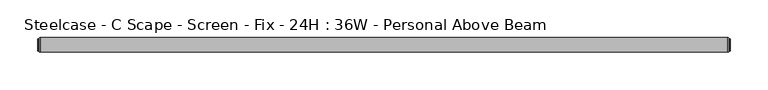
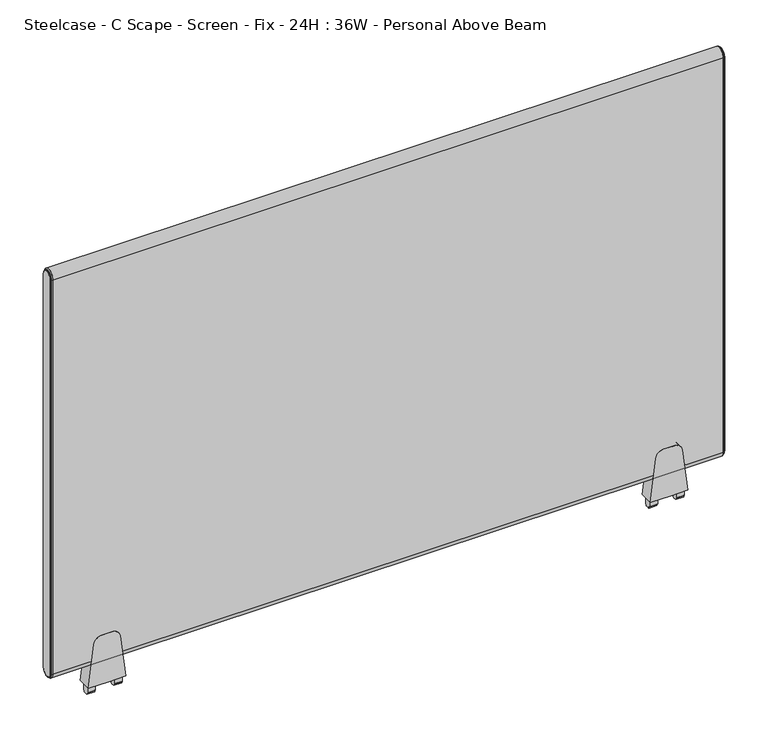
"""IFC4 building model written with IfcOpenShell, lengths in millimetres: furniture geometry, Steelcase - C Scape - Screen - Fix - 24H : 36W - Personal Above Beam."""

from ifc_helpers import new_model, si_unit, point, frame, frame_2d, origin, place, context, project, spatial, polyline, circle_curve, ellipse_curve, trimmed, segment, composite_curve, outline, extrude, source, transform, mapped, element, save
from ifc_brep_helpers import plane_surface, cylinder_surface, revolved_surface, advanced_brep


def steelcase_c_scape_screen_fix_24h_36w_personal_above_beam_34adb9c7(model_context):
    return source(origin(), model_context, "Body", "SolidModel", [
        extrude(outline(composite_curve([segment(polyline([(609.511112, 101.4730434), (669.8362421, 94.0661495)]), True, "CONTINUOUS"), segment(trimmed(circle_curve(frame_2d((668.5143718, 83.300233)), 10.8467645), [point((669.8362421, 94.0661495))], [point((679.3611362, 83.300233))], False, "CARTESIAN"), True, "CONTINUOUS"), segment(polyline([(679.3611362, 83.300233), (679.3611362, 76.2001674), (679.3611362, 69.1001018)]), True, "CONTINUOUS"), segment(trimmed(circle_curve(frame_2d((668.5143718, 69.1001018)), 10.8467645), [point((679.3611362, 69.1001018))], [point((669.8362421, 58.3341853))], False, "CARTESIAN"), True, "CONTINUOUS"), segment(polyline([(669.8362421, 58.3341853), (609.511112, 50.9272915), (609.511112, 76.2001674), (609.511112, 101.4730434)]), True, "CONTINUOUS")], self_intersect=False)), frame((0.0, -9.525, 0.0), z_axis=(0.0, 1.0, 0.0), x_axis=(0.0, 0.0, 1.0)), (0.0, 0.0, 1.0), 19.05),
        extrude(outline(polyline([(4.5465975, 609.511112), (4.5465975, 599.6051033), (4.0139265, 598.7186748), (2.9972008, 598.7186748), (2.9972008, 596.4834188), (0.0, 596.392), (-2.9972008, 596.4834188), (-2.9972008, 598.7186748), (-4.0139265, 598.7186748), (-4.5465975, 599.6051033), (-4.5465975, 609.511112), (0.0, 609.511112), (4.5465975, 609.511112)])), frame((88.9267162, 0.0, 0.0), z_axis=(1.0, 0.0, 0.0), x_axis=(0.0, 1.0, 0.0)), (0.0, 0.0, 1.0), 10.7813187),
        extrude(outline(polyline([(4.5465975, 609.511112), (4.5465975, 599.6051033), (4.0139265, 598.7186748), (2.9972008, 598.7186748), (2.9972008, 596.4834188), (0.0, 596.392), (-2.9972008, 596.4834188), (-2.9972008, 598.7186748), (-4.0139265, 598.7186748), (-4.5465975, 599.6051033), (-4.5465975, 609.511112), (0.0, 609.511112), (4.5465975, 609.511112)])), frame((52.6923, 0.0, 0.0), z_axis=(1.0, 0.0, 0.0), x_axis=(0.0, 1.0, 0.0)), (0.0, 0.0, 1.0), 10.7813187),
        extrude(outline(composite_curve([segment(polyline([(609.511112, 862.7107132), (669.8362421, 855.3038193)]), True, "CONTINUOUS"), segment(trimmed(circle_curve(frame_2d((668.5143718, 844.5379028)), 10.8467645), [point((669.8362421, 855.3038193))], [point((679.3611362, 844.5379028))], False, "CARTESIAN"), True, "CONTINUOUS"), segment(polyline([(679.3611362, 844.5379028), (679.3611362, 837.4378372), (679.3611362, 830.3377716)]), True, "CONTINUOUS"), segment(trimmed(circle_curve(frame_2d((668.5143718, 830.3377716)), 10.8467645), [point((679.3611362, 830.3377716))], [point((669.8362421, 819.5718551))], False, "CARTESIAN"), True, "CONTINUOUS"), segment(polyline([(669.8362421, 819.5718551), (609.511112, 812.1649612), (609.511112, 837.4378372), (609.511112, 862.7107132)]), True, "CONTINUOUS")], self_intersect=False)), frame((0.0, -9.525, 0.0), z_axis=(0.0, 1.0, 0.0), x_axis=(0.0, 0.0, 1.0)), (0.0, 0.0, 1.0), 19.05),
        extrude(outline(polyline([(4.5465975, 609.511112), (4.5465975, 599.6051033), (4.0139265, 598.7186748), (2.9972008, 598.7186748), (2.9972008, 596.4834188), (0.0, 596.392), (-2.9972008, 596.4834188), (-2.9972008, 598.7186748), (-4.0139265, 598.7186748), (-4.5465975, 599.6051033), (-4.5465975, 609.511112), (0.0, 609.511112), (4.5465975, 609.511112)])), frame((850.164386, 0.0, 0.0), z_axis=(1.0, 0.0, 0.0), x_axis=(0.0, 1.0, 0.0)), (0.0, 0.0, 1.0), 10.7813187),
        extrude(outline(polyline([(4.5465975, 609.511112), (4.5465975, 599.6051033), (4.0139265, 598.7186748), (2.9972008, 598.7186748), (2.9972008, 596.4834188), (0.0, 596.392), (-2.9972008, 596.4834188), (-2.9972008, 598.7186748), (-4.0139265, 598.7186748), (-4.5465975, 599.6051033), (-4.5465975, 609.511112), (0.0, 609.511112), (4.5465975, 609.511112)])), frame((813.9299698, 0.0, 0.0), z_axis=(1.0, 0.0, 0.0), x_axis=(0.0, 1.0, 0.0)), (0.0, 0.0, 1.0), 10.7813187),
        advanced_brep(
        [(910.8486613, -9.525, 1211.707), (910.8486613, 9.525, 1211.707), (910.8486613, 9.525, 646.557), (910.8486613, -9.525, 646.557), (913.6426613, 7.4929583, 1211.707), (913.6426613, -7.4929583, 1211.707), (913.6426613, -7.4929583, 646.557), (913.6426613, 7.4929583, 646.557), (913.1346545, -8.0009651, 1211.707), (913.1346545, 8.0009651, 1211.707), (911.8646613, 8.0009651, 1211.707), (911.8646613, -8.0009651, 1211.707), (911.8646613, -8.8204932, 1211.707), (911.8646613, 8.8204932, 1211.707), (911.8646613, -8.0009651, 646.557), (913.1346545, -8.0009651, 646.557), (911.8646613, -8.8204932, 646.557), (911.8646613, 8.0009651, 646.557), (913.1346545, 8.0009651, 646.557), (911.8646613, 8.8204932, 646.557)],
        [
            (0, 1, circle_curve(frame((910.8486613, 0.0, 1211.707), z_axis=(-1.0, 0.0, 0.0), x_axis=(0.0, 1.0, 0.0)), 9.525)),
            (1, 2),
            (2, 3, circle_curve(frame((910.8486613, 0.0, 646.557), z_axis=(-1.0, 0.0, 0.0), x_axis=(0.0, -1.0, 0.0)), 9.525)),
            (3, 0),
            (4, 5, circle_curve(frame((913.6426613, 0.0, 1211.707), z_axis=(1.0, 0.0, 0.0), x_axis=(0.0, 1.0, 0.0)), 7.4929583)),
            (5, 6),
            (6, 7, circle_curve(frame((913.6426613, 0.0, 646.557), z_axis=(1.0, 0.0, 0.0), x_axis=(0.0, -1.0, 0.0)), 7.4929583)),
            (7, 4),
            (8, 9, circle_curve(frame((913.1346545, 0.0, 1211.707), z_axis=(-1.0, 0.0, 0.0), x_axis=(0.0, 1.0, 0.0)), 8.0009651)),
            (9, 10),
            (10, 11, circle_curve(frame((911.8646613, 0.0, 1211.707), z_axis=(1.0, 0.0, 0.0), x_axis=(0.0, 1.0, 0.0)), 8.0009651)),
            (11, 8),
            (8, 5, circle_curve(frame((913.1346545, -7.4929583, 1211.707), z_axis=(0.0, 0.0, 1.0), x_axis=(0.0, -1.0, 0.0)), 0.5080068)),
            (4, 9, circle_curve(frame((913.1346545, 7.4929583, 1211.707), z_axis=(0.0, 0.0, 1.0), x_axis=(0.0, 1.0, 0.0)), 0.5080068)),
            (12, 13, circle_curve(frame((911.8646613, 0.0, 1211.707), z_axis=(-1.0, 0.0, 0.0), x_axis=(0.0, 1.0, 0.0)), 8.8204932)),
            (13, 1, circle_curve(frame((910.7806211, 8.3420139, 1211.707), z_axis=(0.0, 0.0, 1.0), x_axis=(0.0, 1.0, 0.0)), 1.1849411)),
            (0, 12, circle_curve(frame((910.7806211, -8.3420139, 1211.707), z_axis=(0.0, 0.0, 1.0), x_axis=(0.0, -1.0, 0.0)), 1.1849411)),
            (11, 14),
            (14, 15),
            (15, 8),
            (15, 6, circle_curve(frame((913.1346545, -7.4929583, 646.557), z_axis=(0.0, 0.0, 1.0), x_axis=(0.0, -1.0, 0.0)), 0.5080068)),
            (3, 16, circle_curve(frame((910.7806211, -8.3420139, 646.557), z_axis=(0.0, 0.0, 1.0), x_axis=(0.0, -1.0, 0.0)), 1.1849411)),
            (16, 12),
            (14, 17, circle_curve(frame((911.8646613, 0.0, 646.557), z_axis=(1.0, 0.0, 0.0), x_axis=(0.0, -1.0, 0.0)), 8.0009651)),
            (17, 18),
            (18, 15, circle_curve(frame((913.1346545, 0.0, 646.557), z_axis=(-1.0, 0.0, 0.0), x_axis=(0.0, -1.0, 0.0)), 8.0009651)),
            (18, 7, circle_curve(frame((913.1346545, 7.4929583, 646.557), z_axis=(0.0, 0.0, -1.0), x_axis=(0.0, 1.0, 0.0)), 0.5080068)),
            (2, 19, circle_curve(frame((910.7806211, 8.3420139, 646.557), z_axis=(0.0, 0.0, -1.0), x_axis=(0.0, 1.0, 0.0)), 1.1849411)),
            (19, 16, circle_curve(frame((911.8646613, 0.0, 646.557), z_axis=(-1.0, 0.0, 0.0), x_axis=(0.0, -1.0, 0.0)), 8.8204932)),
            (9, 18),
            (17, 10),
            (13, 19),
        ],
        [
            plane_surface(frame((910.8486613, -6.3509705, 1211.707), z_axis=(-1.0, 0.0, 0.0), x_axis=(0.0, 0.0, 1.0))),
            plane_surface(frame((913.6426613, -6.3509705, 1211.707), z_axis=(1.0, 0.0, 0.0), x_axis=(0.0, 0.0, -1.0))),
            cylinder_surface(frame((910.8486613, 0.0, 1211.707), z_axis=(1.0, 0.0, 0.0), x_axis=(0.0, 1.0, 0.0)), 8.0009651),
            revolved_surface(trimmed(ellipse_curve(frame((913.1346545, 7.4929583, 1211.707), z_axis=(0.0, 0.0, -1.0), x_axis=(0.0, 1.0, 0.0)), 0.5080068, 0.5080068), [point((913.1346545, 8.0009651, 1211.707))], [point((913.6426613, 7.4929583, 1211.707))], True, "CARTESIAN"), (910.8486613, 0.0, 1211.707), (1.0, 0.0, 0.0)),
            revolved_surface(trimmed(ellipse_curve(frame((910.7806211, 8.3420139, 1211.707), z_axis=(0.0, 0.0, -1.0), x_axis=(0.0, 1.0, 0.0)), 1.1849411, 1.1849411), [point((910.8486613, 9.525, 1211.707))], [point((911.8646613, 8.8204932, 1211.707))], True, "CARTESIAN"), (910.8486613, 0.0, 1211.707), (1.0, 0.0, 0.0)),
            plane_surface(frame((911.8646613, -8.0009651, 1211.707), z_axis=(0.0, -1.0, 0.0), x_axis=(0.0, 0.0, -1.0))),
            cylinder_surface(frame((913.1346545, -7.4929583, 1211.707), z_axis=(0.0, 0.0, 1.0), x_axis=(0.0, -1.0, 0.0)), 0.5080068),
            cylinder_surface(frame((910.7806211, -8.3420139, 1211.707), z_axis=(0.0, 0.0, 1.0), x_axis=(0.0, -1.0, 0.0)), 1.1849411),
            cylinder_surface(frame((910.8486613, 0.0, 646.557), z_axis=(1.0, 0.0, 0.0), x_axis=(0.0, -1.0, 0.0)), 8.0009651),
            revolved_surface(trimmed(ellipse_curve(frame((913.1346545, -7.4929583, 646.557), z_axis=(0.0, 0.0, 1.0), x_axis=(0.0, -1.0, 0.0)), 0.5080068, 0.5080068), [point((913.1346545, -8.0009651, 646.557))], [point((913.6426613, -7.4929583, 646.557))], True, "CARTESIAN"), (910.8486613, 0.0, 646.557), (1.0, 0.0, 0.0)),
            revolved_surface(trimmed(ellipse_curve(frame((910.7806211, -8.3420139, 646.557), z_axis=(0.0, 0.0, 1.0), x_axis=(0.0, -1.0, 0.0)), 1.1849411, 1.1849411), [point((910.8486613, -9.525, 646.557))], [point((911.8646613, -8.8204932, 646.557))], True, "CARTESIAN"), (910.8486613, 0.0, 646.557), (1.0, 0.0, 0.0)),
            plane_surface(frame((911.8646613, 8.0009651, 646.557), z_axis=(0.0, 1.0, 0.0), x_axis=(0.0, 0.0, 1.0))),
            cylinder_surface(frame((913.1346545, 7.4929583, 646.557), z_axis=(0.0, 0.0, -1.0), x_axis=(0.0, 1.0, 0.0)), 0.5080068),
            cylinder_surface(frame((910.7806211, 8.3420139, 646.557), z_axis=(0.0, 0.0, -1.0), x_axis=(0.0, 1.0, 0.0)), 1.1849411),
            plane_surface(frame((911.8646613, 8.8204932, 646.557), z_axis=(1.0, 0.0, 0.0), x_axis=(0.0, 0.0, 1.0))),
        ],
        [
            (0, [[1, 2, 3, 4]]),
            (1, [[5, 6, 7, 8]]),
            (2, [[9, 10, 11, 12]]),
            (3, [[-9, 13, -5, 14]]),
            (4, [[15, 16, -1, 17]]),
            (5, [[-12, 18, 19, 20]]),
            (6, [[-13, -20, 21, -6]]),
            (7, [[-17, -4, 22, 23]]),
            (8, [[-19, 24, 25, 26]]),
            (9, [[-21, -26, 27, -7]]),
            (10, [[-22, -3, 28, 29]]),
            (11, [[-10, 30, -25, 31]]),
            (12, [[-14, -8, -27, -30]]),
            (13, [[-16, 32, -28, -2]]),
            (14, [[-15, -23, -29, -32], [-11, -31, -24, -18]]),
        ],
    ),
        advanced_brep(
        [(2.7940155, 9.525, 1211.707), (2.7940155, -9.525, 1211.707), (2.7940155, -9.525, 646.557), (2.7940155, 9.525, 646.557), (0.0, -7.4929583, 1211.707), (0.0, 7.4929583, 1211.707), (0.0, 7.4929583, 646.557), (0.0, -7.4929583, 646.557), (1.778, 8.8204932, 1211.707), (1.778, -8.8204932, 1211.707), (0.5080068, -8.0009651, 1211.707), (0.5080068, 8.0009651, 1211.707), (1.778, -8.0009651, 1211.707), (1.778, 8.0009651, 1211.707), (1.778, -8.8204932, 646.557), (0.5080068, -8.0009651, 646.557), (1.778, -8.0009651, 646.557), (1.778, 8.8204932, 646.557), (0.5080068, 8.0009651, 646.557), (1.778, 8.0009651, 646.557)],
        [
            (0, 1, circle_curve(frame((2.7940155, 0.0, 1211.707), z_axis=(1.0, 0.0, 0.0), x_axis=(0.0, 1.0, 0.0)), 9.525)),
            (1, 2),
            (2, 3, circle_curve(frame((2.7940155, 0.0, 646.557), z_axis=(1.0, 0.0, 0.0), x_axis=(0.0, -1.0, 0.0)), 9.525)),
            (3, 0),
            (4, 5, circle_curve(frame((0.0, 0.0, 1211.707), z_axis=(-1.0, 0.0, 0.0), x_axis=(0.0, 1.0, 0.0)), 7.4929583)),
            (5, 6),
            (6, 7, circle_curve(frame((0.0, 0.0, 646.557), z_axis=(-1.0, 0.0, 0.0), x_axis=(0.0, -1.0, 0.0)), 7.4929583)),
            (7, 4),
            (0, 8, circle_curve(frame((2.8620402, 8.3420139, 1211.707), z_axis=(0.0, 0.0, 1.0), x_axis=(0.0, -1.0, 0.0)), 1.1849411)),
            (8, 9, circle_curve(frame((1.778, 0.0, 1211.707), z_axis=(1.0, 0.0, 0.0), x_axis=(0.0, 1.0, 0.0)), 8.8204932)),
            (9, 1, circle_curve(frame((2.8620402, -8.3420139, 1211.707), z_axis=(0.0, 0.0, 1.0), x_axis=(0.0, 1.0, 0.0)), 1.1849411)),
            (10, 11, circle_curve(frame((0.5080068, 0.0, 1211.707), z_axis=(-1.0, 0.0, 0.0), x_axis=(0.0, 1.0, 0.0)), 8.0009651)),
            (11, 5, circle_curve(frame((0.5080068, 7.4929583, 1211.707), z_axis=(0.0, 0.0, 1.0), x_axis=(0.0, -1.0, 0.0)), 0.5080068)),
            (4, 10, circle_curve(frame((0.5080068, -7.4929583, 1211.707), z_axis=(0.0, 0.0, 1.0), x_axis=(0.0, 1.0, 0.0)), 0.5080068)),
            (10, 12),
            (12, 13, circle_curve(frame((1.778, 0.0, 1211.707), z_axis=(-1.0, 0.0, 0.0), x_axis=(0.0, 1.0, 0.0)), 8.0009651)),
            (13, 11),
            (9, 14),
            (14, 2, circle_curve(frame((2.8620402, -8.3420139, 646.557), z_axis=(0.0, 0.0, 1.0), x_axis=(0.0, 1.0, 0.0)), 1.1849411)),
            (7, 15, circle_curve(frame((0.5080068, -7.4929583, 646.557), z_axis=(0.0, 0.0, 1.0), x_axis=(0.0, 1.0, 0.0)), 0.5080068)),
            (15, 10),
            (15, 16),
            (16, 12),
            (14, 17, circle_curve(frame((1.778, 0.0, 646.557), z_axis=(1.0, 0.0, 0.0), x_axis=(0.0, -1.0, 0.0)), 8.8204932)),
            (17, 3, circle_curve(frame((2.8620402, 8.3420139, 646.557), z_axis=(0.0, 0.0, -1.0), x_axis=(0.0, -1.0, 0.0)), 1.1849411)),
            (6, 18, circle_curve(frame((0.5080068, 7.4929583, 646.557), z_axis=(0.0, 0.0, -1.0), x_axis=(0.0, -1.0, 0.0)), 0.5080068)),
            (18, 15, circle_curve(frame((0.5080068, 0.0, 646.557), z_axis=(-1.0, 0.0, 0.0), x_axis=(0.0, -1.0, 0.0)), 8.0009651)),
            (18, 19),
            (19, 16, circle_curve(frame((1.778, 0.0, 646.557), z_axis=(-1.0, 0.0, 0.0), x_axis=(0.0, -1.0, 0.0)), 8.0009651)),
            (8, 17),
            (19, 13),
            (11, 18),
        ],
        [
            plane_surface(frame((2.7940155, -6.3509705, 1211.707), z_axis=(1.0, 0.0, 0.0), x_axis=(0.0, 0.0, -1.0))),
            plane_surface(frame((0.0, -6.3509705, 1211.707), z_axis=(-1.0, 0.0, 0.0), x_axis=(0.0, 0.0, 1.0))),
            revolved_surface(trimmed(ellipse_curve(frame((2.8620402, 8.3420139, 1211.707), z_axis=(0.0, 0.0, -1.0), x_axis=(0.0, -1.0, 0.0)), 1.1849411, 1.1849411), [point((1.778, 8.8204932, 1211.707))], [point((2.794, 9.525, 1211.707))], True, "CARTESIAN"), (2.794, 0.0, 1211.707), (1.0, 0.0, 0.0)),
            revolved_surface(trimmed(ellipse_curve(frame((0.5080068, 7.4929583, 1211.707), z_axis=(0.0, 0.0, -1.0), x_axis=(0.0, -1.0, 0.0)), 0.5080068, 0.5080068), [point((0.0, 7.4929583, 1211.707))], [point((0.5080068, 8.0009651, 1211.707))], True, "CARTESIAN"), (2.794, 0.0, 1211.707), (1.0, 0.0, 0.0)),
            cylinder_surface(frame((2.794, 0.0, 1211.707), z_axis=(1.0, 0.0, 0.0), x_axis=(0.0, 1.0, 0.0)), 8.0009651),
            cylinder_surface(frame((2.8620402, -8.3420139, 1211.707), z_axis=(0.0, 0.0, 1.0), x_axis=(0.0, 1.0, 0.0)), 1.1849411),
            cylinder_surface(frame((0.5080068, -7.4929583, 1211.707), z_axis=(0.0, 0.0, 1.0), x_axis=(0.0, 1.0, 0.0)), 0.5080068),
            plane_surface(frame((0.5080068, -8.0009651, 1211.707), z_axis=(0.0, -1.0, 0.0), x_axis=(0.0, 0.0, -1.0))),
            revolved_surface(trimmed(ellipse_curve(frame((2.8620402, -8.3420139, 646.557), z_axis=(0.0, 0.0, 1.0), x_axis=(0.0, 1.0, 0.0)), 1.1849411, 1.1849411), [point((1.778, -8.8204932, 646.557))], [point((2.794, -9.525, 646.557))], True, "CARTESIAN"), (2.794, 0.0, 646.557), (1.0, 0.0, 0.0)),
            revolved_surface(trimmed(ellipse_curve(frame((0.5080068, -7.4929583, 646.557), z_axis=(0.0, 0.0, 1.0), x_axis=(0.0, 1.0, 0.0)), 0.5080068, 0.5080068), [point((0.0, -7.4929583, 646.557))], [point((0.5080068, -8.0009651, 646.557))], True, "CARTESIAN"), (2.794, 0.0, 646.557), (1.0, 0.0, 0.0)),
            cylinder_surface(frame((2.794, 0.0, 646.557), z_axis=(1.0, 0.0, 0.0), x_axis=(0.0, -1.0, 0.0)), 8.0009651),
            plane_surface(frame((1.778, 8.0009651, 646.557), z_axis=(-1.0, 0.0, 0.0), x_axis=(0.0, 0.0, 1.0))),
            cylinder_surface(frame((2.8620402, 8.3420139, 646.557), z_axis=(0.0, 0.0, -1.0), x_axis=(0.0, -1.0, 0.0)), 1.1849411),
            cylinder_surface(frame((0.5080068, 7.4929583, 646.557), z_axis=(0.0, 0.0, -1.0), x_axis=(0.0, -1.0, 0.0)), 0.5080068),
            plane_surface(frame((0.5080068, 8.0009651, 646.557), z_axis=(0.0, 1.0, 0.0), x_axis=(0.0, 0.0, 1.0))),
        ],
        [
            (0, [[1, 2, 3, 4]]),
            (1, [[5, 6, 7, 8]]),
            (2, [[-1, 9, 10, 11]]),
            (3, [[12, 13, -5, 14]]),
            (4, [[-12, 15, 16, 17]]),
            (5, [[-11, 18, 19, -2]]),
            (6, [[-14, -8, 20, 21]]),
            (7, [[-15, -21, 22, 23]]),
            (8, [[-19, 24, 25, -3]]),
            (9, [[-20, -7, 26, 27]]),
            (10, [[-22, -27, 28, 29]]),
            (11, [[-10, 30, -24, -18], [-16, -23, -29, 31]]),
            (12, [[-9, -4, -25, -30]]),
            (13, [[-13, 32, -26, -6]]),
            (14, [[-17, -31, -28, -32]]),
        ],
    ),
        extrude(outline(composite_curve([segment(trimmed(circle_curve(frame_2d((0.0, 1211.707)), 9.525), [point((-9.525, 1211.707))], [point((9.525, 1211.707))], False, "CARTESIAN"), True, "CONTINUOUS"), segment(polyline([(9.525, 1211.707), (9.525, 646.557)]), True, "CONTINUOUS"), segment(trimmed(circle_curve(frame_2d((0.0, 646.557)), 9.525), [point((9.525, 646.557))], [point((-9.525, 646.557))], False, "CARTESIAN"), True, "CONTINUOUS"), segment(polyline([(-9.525, 646.557), (-9.525, 1211.707)]), True, "CONTINUOUS")], self_intersect=False)), frame((2.794, 0.0, 0.0), z_axis=(1.0, 0.0, 0.0), x_axis=(0.0, 1.0, 0.0)), (0.0, 0.0, 1.0), 908.0546613),
    ])


if __name__ == "__main__":
    model = new_model("IFC4")
    model_context = context("Model", 3, world=origin())
    ifc_project = project(units=[si_unit("LENGTHUNIT", "METRE", prefix="MILLI")], contexts=[model_context])
    site = spatial("IfcSite", under=ifc_project)
    building = spatial("IfcBuilding", under=site)
    placement = place(None, origin())
    steelcase_c_scape_screen_fix_24h_36w_personal_above_beam_shape = steelcase_c_scape_screen_fix_24h_36w_personal_above_beam_34adb9c7(model_context)
    element("IfcFurniture", 1, ObjectType="Steelcase - C Scape - Screen - Fix - 24H : 36W - Personal Above Beam", at=placement, inside=building, context=model_context, shape_type="MappedRepresentation", body=[
        mapped(steelcase_c_scape_screen_fix_24h_36w_personal_above_beam_shape, transform((0.0, 0.0, 0.0), x_axis=(1.0, 0.0, 0.0), y_axis=(0.0, 1.0, 0.0), z_axis=(0.0, 0.0, 1.0))),
    ])
    save(model, "model.ifc")
